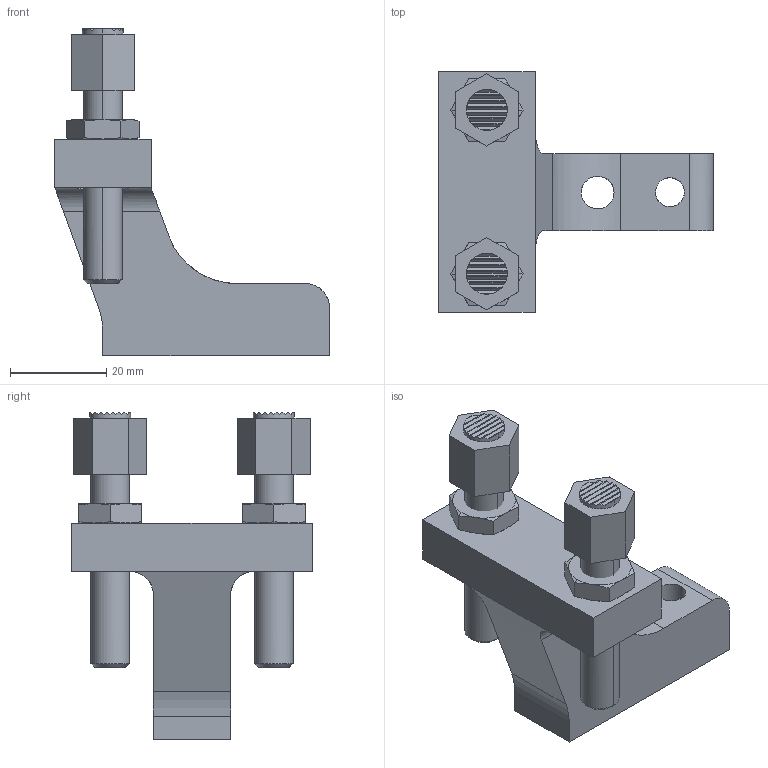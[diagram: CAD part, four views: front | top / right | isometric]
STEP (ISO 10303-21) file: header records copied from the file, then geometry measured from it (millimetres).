
FILE_DESCRIPTION(('STEP AP214'),'1');
FILE_NAME('EGT184_1_1710823_SPANNBACKE_50_63.CATPart.stp','2015-09-14T13:11:32',('3D-Tool'),(' '),'Spatial InterOp 3D',' ',' ');
FILE_SCHEMA(('automotive_design'));
Length unit declared in the file: millimetre
Products named in the file (5): EGT184_1_1710823_SPANNBACKE_50_63|PartBody|PartBody; EGT184_1_1710823_SPANNBACKE_50_63|Body.13|Body.13; EGT184_1_1710823_SPANNBACKE_50_63|Body.10|Body.10; EGT184_1_1710823_SPANNBACKE_50_63|Body.12|Body.12; EGT184_1_1710823_SPANNBACKE_50_63|Body.11|Body.11
Bounding box: 57 x 50 x 68 mm (x, y, z)
Volume: 34085 mm3; surface area: 13663.5 mm2
Topology: 5 solids, 5 shells, 165 faces, 450 edges, 298 vertices
Faces by surface type: plane 96, cone 38, cylinder 31
Entity records: 6437 total; most frequent: CARTESIAN_POINT 1872, ORIENTED_EDGE 896, EDGE_CURVE 448, DIRECTION 348, VERTEX_POINT 298, B_SPLINE_CURVE_WITH_KNOTS 254, EDGE_LOOP 182, STYLED_ITEM 170
